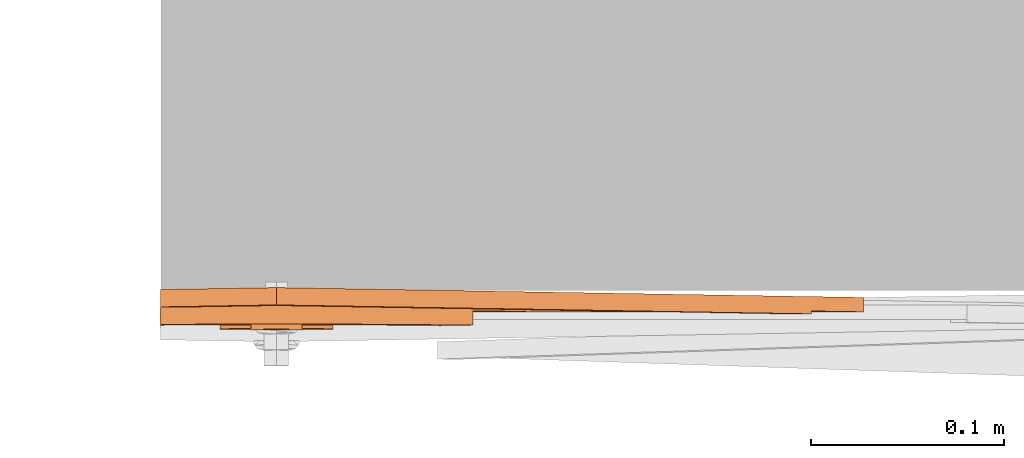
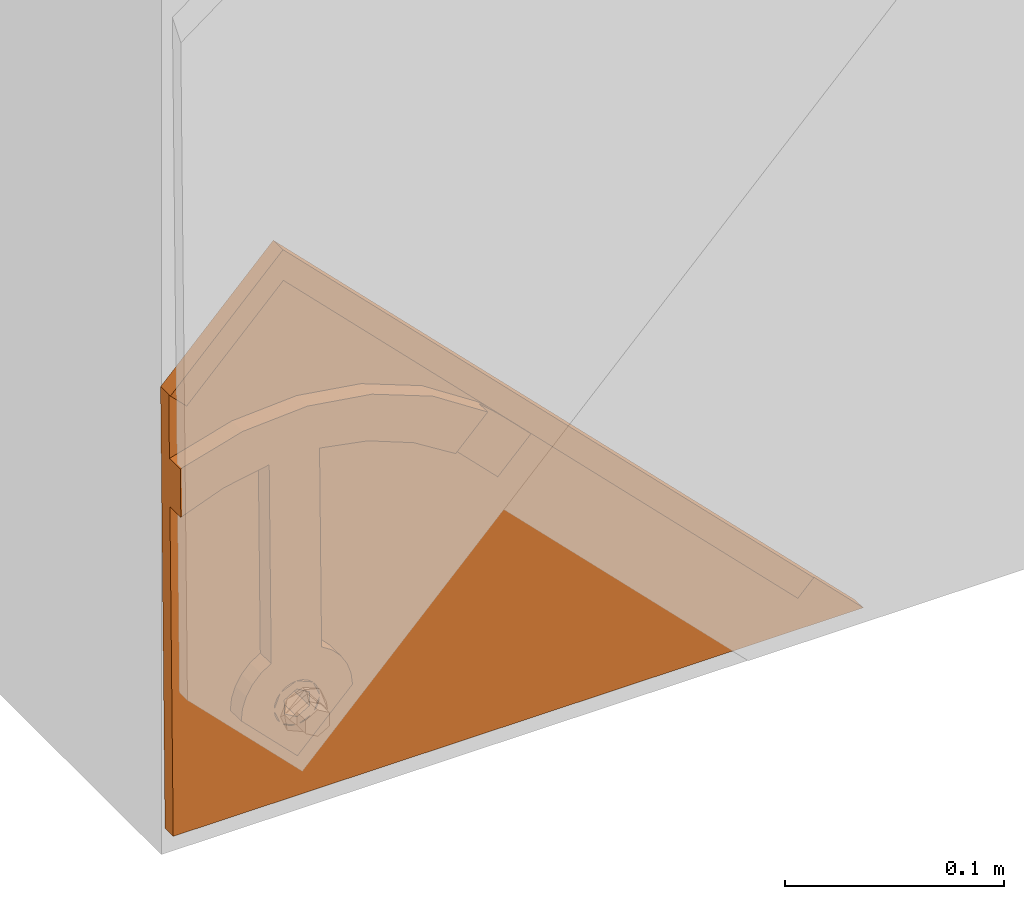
# One storey, part 146 of 151: 1 proxy.
"""IFC2X3 building model written with IfcOpenShell, lengths in millimetres."""

from ifc_helpers import new_model, entity, si_unit, converted_unit, derived_unit, direction, frame, origin, place, context, subcontext, project, spatial, faceted_brep, source, transform, mapped, material, material_list, type_object, type_shapes, element, save


model = new_model("IFC2X3")

# Units and contexts
model_context = context("Model", 3, precision=0.01, world=origin(), true_north=direction((6.12303176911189e-17, 1.0)))
body_context = subcontext(model_context, "Body", "Model", "MODEL_VIEW")
ifc_project = project(units=[si_unit("LENGTHUNIT", "METRE", prefix="MILLI"), si_unit("AREAUNIT", "SQUARE_METRE"), si_unit("VOLUMEUNIT", "CUBIC_METRE"), converted_unit("PLANEANGLEUNIT", "DEGREE", entity("IfcRatioMeasure", 0.0174532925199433), si_unit("PLANEANGLEUNIT", "RADIAN"), dimensions=[0, 0, 0, 0, 0, 0, 0]), si_unit("MASSUNIT", "GRAM", prefix="KILO"), derived_unit("MASSDENSITYUNIT", [(si_unit("MASSUNIT", "GRAM", prefix="KILO"), 1), (si_unit("LENGTHUNIT", "METRE"), -3)]), si_unit("TIMEUNIT", "SECOND"), si_unit("FREQUENCYUNIT", "HERTZ"), si_unit("THERMODYNAMICTEMPERATUREUNIT", "DEGREE_CELSIUS"), derived_unit("THERMALTRANSMITTANCEUNIT", [(si_unit("MASSUNIT", "GRAM", prefix="KILO"), 1), (si_unit("THERMODYNAMICTEMPERATUREUNIT", "KELVIN"), -1), (si_unit("TIMEUNIT", "SECOND"), -3)]), derived_unit("VOLUMETRICFLOWRATEUNIT", [(si_unit("LENGTHUNIT", "METRE"), 3), (si_unit("TIMEUNIT", "SECOND"), -1)]), si_unit("ELECTRICCURRENTUNIT", "AMPERE"), si_unit("ELECTRICVOLTAGEUNIT", "VOLT"), si_unit("POWERUNIT", "WATT"), si_unit("FORCEUNIT", "NEWTON", prefix="KILO"), si_unit("ILLUMINANCEUNIT", "LUX"), si_unit("LUMINOUSFLUXUNIT", "LUMEN"), si_unit("LUMINOUSINTENSITYUNIT", "CANDELA"), derived_unit("USERDEFINED", [(si_unit("MASSUNIT", "GRAM", prefix="KILO"), -1), (si_unit("LENGTHUNIT", "METRE"), -2), (si_unit("TIMEUNIT", "SECOND"), 3), (si_unit("LUMINOUSFLUXUNIT", "LUMEN"), 1)]), derived_unit("LINEARVELOCITYUNIT", [(si_unit("LENGTHUNIT", "METRE"), 1), (si_unit("TIMEUNIT", "SECOND"), -1)]), si_unit("PRESSUREUNIT", "PASCAL"), derived_unit("USERDEFINED", [(si_unit("LENGTHUNIT", "METRE"), -2), (si_unit("MASSUNIT", "GRAM", prefix="KILO"), 1), (si_unit("TIMEUNIT", "SECOND"), -2)])], contexts=[model_context])

# Site, building, storey
site_placement = place(None, origin())
site = spatial("IfcSite", under=ifc_project, at=site_placement, Name="Default", CompositionType="ELEMENT")
building_placement = place(site_placement, origin())
building = spatial("IfcBuilding", under=site, at=building_placement, CompositionType="ELEMENT")
storey_placement = place(building_placement, origin())
storey = spatial("IfcBuildingStorey", under=building, at=storey_placement, Name="Level 1", CompositionType="ELEMENT", Elevation=0.0)

# Proxy
ifc_material_1 = material(Name="Rubber - Sunstyle - Black")
ifc_material_2 = material(Name="Glass - Sunstyle - Tainted Terracotta")
ifc_material_list_1 = material_list([ifc_material_1, ifc_material_2])
ifc_material_list_2 = material_list([ifc_material_1, ifc_material_2])
building_element_proxy_type = type_object("IfcBuildingElementProxyType", Name="Corner Bottom Small Left - Terracotta", PredefinedType="NOTDEFINED", material=ifc_material_list_2)
shared_shape = source(origin(), body_context, "Body", "Brep", [
    faceted_brep([(330.847757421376, 18.4932261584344, 12.2894055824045), (339.332443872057, 26.9779126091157, 12.1473081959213), (339.332443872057, 27.0030303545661, 13.6470978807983), (330.847757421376, 18.5183439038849, 13.7891952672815), (61.6993486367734, 287.566165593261, 7.7831033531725), (10.0799586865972, 235.961249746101, 8.64735729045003), (1.59527223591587, 244.445936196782, 8.50525990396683), (61.6993486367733, 304.533159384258, 7.49894842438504), (61.6993486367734, 304.558277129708, 8.9987381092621), (1.59527223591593, 244.471053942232, 10.0050495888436), (10.0799586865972, 235.986367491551, 10.147146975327), (61.6993486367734, 287.591283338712, 9.2828930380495)], [[[0, 1, 2, 3]], [[1, 0, 4, 5, 6, 7]], [[2, 1, 7, 8]], [[3, 2, 8, 9, 10, 11]], [[0, 3, 11, 4]], [[5, 10, 9, 6]], [[8, 7, 6, 9]], [[4, 11, 10, 5]]]),
    faceted_brep([(61.6990261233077, 46.946835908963, 21.8142807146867), (61.6990261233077, 51.4462045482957, 21.7389274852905), (53.0953219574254, 50.5101071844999, 21.7546047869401), (70.3027302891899, 50.5101071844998, 21.7546047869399), (68.3392547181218, 55.2794047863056, 21.6747309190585), (73.8665012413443, 59.1126050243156, 21.6105343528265), (68.3392547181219, 62.9458052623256, 21.5463377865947), (70.30273028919, 67.7151028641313, 21.4664639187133), (61.6990261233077, 66.7790055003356, 21.4821412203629), (61.6990261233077, 71.2783741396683, 21.4067879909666), (53.0953219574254, 67.7151028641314, 21.4664639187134), (55.0587975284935, 62.9458052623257, 21.5463377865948), (49.5315510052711, 59.1126050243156, 21.6105343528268), (55.0587975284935, 55.2794047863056, 21.6747309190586), (55.0587978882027, 62.6778824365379, 5.54858115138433), (61.6990261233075, 66.5110824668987, 5.48438458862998), (55.0587978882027, 55.0114823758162, 5.6769742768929), (61.6990261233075, 51.1782823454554, 5.74117083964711), (68.3392543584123, 55.0114823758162, 5.67697427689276), (68.3392543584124, 62.6778824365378, 5.5485811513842), (53.0953219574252, 50.2421845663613, 5.75684814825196), (61.6990261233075, 46.6789132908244, 5.81652407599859), (49.5315510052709, 58.844682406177, 5.61277771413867), (53.0953219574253, 67.4471802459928, 5.4687072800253), (61.6990261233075, 71.0104515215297, 5.4090313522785), (70.3027302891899, 67.4471802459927, 5.46870728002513), (73.8665012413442, 58.844682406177, 5.61277771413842), (70.3027302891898, 50.2421845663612, 5.75684814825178)], [[[0, 1, 2]], [[1, 0, 3]], [[3, 4, 1]], [[4, 3, 5]], [[6, 4, 5]], [[5, 7, 6]], [[7, 8, 6]], [[8, 7, 9]], [[8, 9, 10]], [[10, 11, 8]], [[12, 11, 10]], [[2, 13, 12]], [[12, 13, 11]], [[13, 2, 1]], [[8, 11, 14, 15]], [[11, 13, 16, 14]], [[13, 1, 17, 16]], [[1, 4, 18, 17]], [[4, 6, 19, 18]], [[6, 8, 15, 19]], [[20, 17, 21]], [[17, 20, 16]], [[22, 16, 20]], [[14, 16, 22]], [[23, 14, 22]], [[15, 14, 23]], [[23, 24, 15]], [[24, 25, 15]], [[19, 15, 25]], [[19, 25, 26]], [[26, 18, 19]], [[26, 27, 18]], [[17, 18, 27]], [[27, 21, 17]], [[24, 23, 10, 9]], [[10, 23, 22, 12]], [[20, 21, 0, 2]], [[20, 2, 12, 22]], [[21, 27, 3, 0]], [[3, 27, 26, 5]], [[25, 24, 9, 7]], [[25, 7, 5, 26]]]),
    faceted_brep([(1.59527223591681, 244.445936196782, 8.50525990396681), (58.5931975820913, 70.7020897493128, 11.4150370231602), (61.6990261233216, 71.1109225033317, 11.4081900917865), (55.6990261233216, 69.5034527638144, 11.4351112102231), (64.8048546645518, 70.7020897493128, 11.4150370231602), (53.213744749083, 67.596696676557, 11.4670446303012), (51.3067212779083, 65.1117637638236, 11.5086610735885), (1.5952722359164, 0.125588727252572, 12.5970178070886), (67.6990261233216, 69.5034527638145, 11.4351112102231), (61.6993486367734, 304.533159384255, 7.49894842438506), (50.1079162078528, 62.2179980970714, 11.5571244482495), (49.6990261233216, 59.1126050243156, 11.6091320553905), (50.1079162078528, 56.0072119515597, 11.6611396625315), (51.3067212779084, 53.1134462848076, 11.7096030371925), (53.2137447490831, 50.6285133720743, 11.7512194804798), (55.6990261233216, 48.7217572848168, 11.7831529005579), (58.5931975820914, 47.5231202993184, 11.8032270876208), (61.6990261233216, 47.1142875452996, 11.8100740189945), (64.8048546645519, 47.5231202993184, 11.8032270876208), (67.6990261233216, 48.7217572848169, 11.7831529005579), (366.192299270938, 0.125588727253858, 12.5970178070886), (72.0913309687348, 65.1117637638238, 11.5086610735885), (73.2901360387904, 62.2179980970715, 11.5571244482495), (73.6990261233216, 59.1126050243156, 11.6091320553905), (70.1843074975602, 50.6285133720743, 11.7512194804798), (72.0913309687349, 53.1134462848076, 11.7096030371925), (73.2901360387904, 56.0072119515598, 11.6611396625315), (70.1843074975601, 67.596696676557, 11.4670446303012), (1.5952722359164, 0.0, 5.09806938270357), (55.6990261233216, 48.5961685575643, 4.2842044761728), (58.5931975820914, 47.3975315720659, 4.30427866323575), (53.2137447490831, 50.5029246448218, 4.25227105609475), (61.6990261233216, 46.9886988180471, 4.3111255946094), (51.3067212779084, 52.9878575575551, 4.21065461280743), (50.1079162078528, 55.8816232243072, 4.16219123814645), (49.6990261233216, 58.9870162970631, 4.11018363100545), (50.1079162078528, 62.0924093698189, 4.05817602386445), (64.8048546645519, 47.3975315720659, 4.30427866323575), (67.6990261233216, 48.5961685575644, 4.2842044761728), (366.192299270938, 0.0, 5.09806938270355), (51.3067212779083, 64.9861750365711, 4.00971264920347), (1.59527223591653, 244.320347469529, 1.00631147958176), (53.213744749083, 67.4711079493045, 3.96809620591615), (55.6990261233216, 69.3778640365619, 3.93616278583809), (58.5931975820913, 70.5765010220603, 3.91608859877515), (61.6990261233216, 70.9853337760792, 3.90924166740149), (64.8048546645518, 70.5765010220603, 3.91608859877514), (67.6990261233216, 69.377864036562, 3.93616278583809), (61.6993486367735, 304.407570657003, 0.0), (72.0913309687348, 64.9861750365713, 4.00971264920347), (70.1843074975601, 67.4711079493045, 3.96809620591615), (70.1843074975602, 50.5029246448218, 4.25227105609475), (72.0913309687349, 52.9878575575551, 4.21065461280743), (73.2901360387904, 55.8816232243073, 4.16219123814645), (73.6990261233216, 58.9870162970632, 4.11018363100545), (73.2901360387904, 62.092409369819, 4.05817602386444)], [[[0, 1, 2]], [[1, 0, 3]], [[0, 2, 4]], [[5, 3, 0]], [[6, 5, 0]], [[6, 0, 7]], [[8, 0, 4]], [[0, 8, 9]], [[7, 10, 6]], [[11, 10, 7]], [[12, 11, 7]], [[13, 12, 7]], [[7, 14, 13]], [[14, 7, 15]], [[16, 15, 7]], [[7, 17, 16]], [[17, 7, 18]], [[19, 18, 7]], [[20, 19, 7]], [[9, 21, 20]], [[20, 21, 22]], [[20, 22, 23]], [[19, 20, 24]], [[25, 24, 20]], [[26, 25, 20]], [[26, 20, 23]], [[9, 8, 27]], [[27, 21, 9]], [[28, 29, 30]], [[29, 28, 31]], [[28, 30, 32]], [[33, 31, 28]], [[34, 33, 28]], [[35, 34, 28]], [[28, 36, 35]], [[37, 28, 32]], [[37, 38, 28]], [[28, 38, 39]], [[36, 28, 40]], [[28, 41, 40]], [[42, 40, 41]], [[41, 43, 42]], [[43, 41, 44]], [[45, 44, 41]], [[41, 46, 45]], [[41, 47, 46]], [[47, 41, 48]], [[49, 48, 39]], [[50, 47, 48]], [[48, 49, 50]], [[38, 51, 39]], [[51, 52, 39]], [[52, 53, 39]], [[39, 53, 54]], [[55, 39, 54]], [[49, 39, 55]], [[11, 35, 36, 10]], [[10, 36, 40, 6]], [[3, 5, 42, 43]], [[40, 42, 5, 6]], [[1, 3, 43, 44]], [[45, 2, 1, 44]], [[4, 46, 47, 8]], [[8, 47, 50, 27]], [[22, 21, 49, 55]], [[50, 49, 21, 27]], [[23, 22, 55, 54]], [[4, 2, 45, 46]], [[23, 54, 53, 26]], [[26, 53, 52, 25]], [[19, 24, 51, 38]], [[52, 51, 24, 25]], [[18, 19, 38, 37]], [[32, 17, 18, 37]], [[16, 30, 29, 15]], [[15, 29, 31, 14]], [[12, 13, 33, 34]], [[31, 33, 13, 14]], [[11, 12, 34, 35]], [[16, 17, 32, 30]], [[0, 9, 48, 41]], [[7, 0, 41, 28]], [[20, 7, 28, 39]], [[9, 20, 39, 48]]]),
    faceted_brep([(1.59527223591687, 209.239382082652, 19.0962843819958), (1.59527223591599, 182.513149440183, 19.5438822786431), (24.4390403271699, 190.969673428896, 19.4022565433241), (34.6448586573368, 218.551914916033, 18.9403226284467), (48.3990261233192, 195.36105911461, 19.3287117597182), (68.9162632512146, 220.671424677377, 18.9048261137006), (74.999026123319, 195.361059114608, 19.3287117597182), (74.99902612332, 85.4841763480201, 21.1688761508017), (48.3990261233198, 85.4841763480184, 21.1688761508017), (61.6990261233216, 71.2783741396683, 21.4067879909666), (58.5931975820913, 70.8695413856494, 21.4136349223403), (55.6990261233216, 69.670904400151, 21.4337091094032), (42.9949199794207, 81.9461281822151, 21.2281296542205), (53.213744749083, 67.7641483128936, 21.4656425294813), (38.4943757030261, 77.3131226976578, 21.3057209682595), (51.3067212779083, 65.2792154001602, 21.5072589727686), (35.1148065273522, 71.8089720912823, 21.397901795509), (50.1079162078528, 62.385449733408, 21.5557223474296), (33.0194733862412, 65.6995720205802, 21.5002190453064), (49.6990261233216, 59.2800566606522, 21.6077299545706), (32.3095980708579, 59.2800566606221, 21.6077299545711), (50.1079162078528, 56.1746635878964, 21.6597375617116), (51.3067212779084, 53.2808979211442, 21.7082009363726), (53.2137447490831, 50.7959650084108, 21.7498173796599), (61.6990261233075, 29.8947493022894, 22.0998607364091), (55.6990261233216, 48.8892089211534, 21.7817507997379), (58.5931975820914, 47.690571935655, 21.8018249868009), (61.6990261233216, 47.2817391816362, 21.8086719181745), (64.8048546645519, 47.690571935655, 21.8018249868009), (67.6990261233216, 48.8892089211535, 21.7817507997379), (70.1843074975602, 50.7959650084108, 21.7498173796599), (91.0884541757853, 59.2800566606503, 21.6077299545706), (72.0913309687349, 53.2808979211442, 21.7082009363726), (73.2901360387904, 56.1746635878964, 21.6597375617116), (73.6990261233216, 59.2800566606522, 21.6077299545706), (90.3785788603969, 65.699572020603, 21.500219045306), (73.2901360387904, 62.3854497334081, 21.5557223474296), (88.2832457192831, 71.8089720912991, 21.3979017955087), (72.0913309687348, 65.2792154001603, 21.5072589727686), (84.9036765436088, 77.3131226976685, 21.3057209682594), (70.1843074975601, 67.7641483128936, 21.4656425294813), (80.4031322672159, 81.9461281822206, 21.2281296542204), (67.6990261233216, 69.6709044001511, 21.4337091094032), (64.8048546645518, 70.8695413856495, 21.4136349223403), (102.861723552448, 215.50219023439, 18.9913979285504), (100.468768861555, 190.546178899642, 19.4093490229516), (134.948197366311, 203.277664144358, 19.1961283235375), (124.623359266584, 181.142545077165, 19.5668364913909), (146.643422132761, 167.469148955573, 19.7958318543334), (163.72659789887, 184.549929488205, 19.5097712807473), (51.3067212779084, 53.1134462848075, 11.7096030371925), (32.3095980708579, 59.1126050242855, 11.609132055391), (50.1079162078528, 56.0072119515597, 11.6611396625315), (53.2137447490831, 50.6285133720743, 11.7512194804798), (61.6990261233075, 29.7272976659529, 12.1012628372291), (55.6990261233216, 48.7217572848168, 11.7831529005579), (58.5931975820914, 47.5231202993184, 11.8032270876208), (61.6990261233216, 47.1142875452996, 11.8100740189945), (64.8048546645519, 47.5231202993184, 11.8032270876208), (67.6990261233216, 48.7217572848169, 11.7831529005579), (70.1843074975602, 50.6285133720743, 11.7512194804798), (91.0884541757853, 59.1126050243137, 11.6091320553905), (72.0913309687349, 53.1134462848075, 11.7096030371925), (73.2901360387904, 56.0072119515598, 11.6611396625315), (73.6990261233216, 59.1126050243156, 11.6091320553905), (90.3785788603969, 65.5321203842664, 11.5016211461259), (73.2901360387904, 62.2179980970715, 11.5571244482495), (88.2832457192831, 71.6415204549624, 11.3993038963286), (72.0913309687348, 65.1117637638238, 11.5086610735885), (84.9036765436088, 77.1456710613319, 11.3071230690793), (70.1843074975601, 67.596696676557, 11.4670446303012), (80.4031322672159, 81.778676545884, 11.2295317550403), (67.6990261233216, 69.5034527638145, 11.4351112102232), (74.99902612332, 85.3167247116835, 11.1702782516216), (64.8048546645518, 70.7020897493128, 11.4150370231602), (61.6990261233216, 71.1109225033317, 11.4081900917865), (48.39902612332, 85.3167247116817, 11.1702782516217), (58.5931975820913, 70.7020897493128, 11.4150370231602), (55.6990261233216, 69.5034527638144, 11.4351112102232), (42.9949199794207, 81.7786765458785, 11.2295317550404), (53.213744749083, 67.596696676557, 11.4670446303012), (38.4943757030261, 77.1456710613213, 11.3071230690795), (51.3067212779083, 65.1117637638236, 11.5086610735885), (35.1148065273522, 71.6415204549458, 11.3993038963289), (50.1079162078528, 62.2179980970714, 11.5571244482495), (33.0194733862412, 65.5321203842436, 11.5016211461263), (49.6990261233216, 59.1126050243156, 11.6091320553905), (48.3990261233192, 195.193607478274, 9.33011386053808), (74.99902612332, 195.193607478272, 9.33011386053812), (68.9162632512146, 220.50397304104, 8.90622821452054), (34.6448586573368, 218.384463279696, 8.94172472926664), (24.4390403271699, 190.802221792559, 9.40365864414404), (1.59527223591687, 209.071930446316, 9.09768648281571), (1.59527223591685, 182.345697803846, 9.545284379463), (102.861723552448, 215.334738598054, 8.99280002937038), (100.468768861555, 190.378727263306, 9.4107511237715), (134.948197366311, 203.110212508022, 9.19753042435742), (124.623359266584, 180.975093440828, 9.5682385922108), (146.643422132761, 167.301697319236, 9.79723395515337), (163.72659789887, 184.382477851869, 9.51117338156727), (169.978999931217, 179.020830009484, 9.60096764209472), (175.949995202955, 173.347554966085, 9.69598088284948), (172.968069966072, 140.980740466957, 10.2380444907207), (190.645739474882, 158.655931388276, 9.94202902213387), (190.645739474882, 158.69779429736, 12.4416784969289), (172.968069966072, 141.022603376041, 12.7376939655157), (163.72659789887, 184.424340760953, 12.0108228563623), (146.643422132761, 167.34356022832, 12.2968834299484), (175.949995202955, 173.38941787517, 12.1956303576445), (169.978999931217, 179.062692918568, 12.1006171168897)], [[[0, 1, 2]], [[0, 2, 3]], [[2, 4, 3]], [[3, 4, 5]], [[5, 4, 6]], [[7, 6, 4]], [[7, 4, 8]], [[9, 7, 8]], [[9, 8, 10]], [[10, 8, 11]], [[12, 11, 8]], [[11, 12, 13]], [[14, 13, 12]], [[13, 14, 15]], [[15, 14, 16]], [[17, 15, 16]], [[18, 17, 16]], [[18, 19, 17]], [[19, 18, 20]], [[20, 21, 19]], [[20, 22, 21]], [[22, 20, 23]], [[23, 20, 24]], [[24, 25, 23]], [[26, 25, 24]], [[24, 27, 26]], [[28, 27, 24]], [[28, 24, 29]], [[30, 29, 24]], [[30, 24, 31]], [[31, 32, 30]], [[33, 32, 31]], [[31, 34, 33]], [[35, 34, 31]], [[34, 35, 36]], [[36, 35, 37]], [[36, 37, 38]], [[38, 37, 39]], [[39, 40, 38]], [[39, 41, 40]], [[7, 42, 41]], [[40, 41, 42]], [[42, 7, 43]], [[43, 7, 9]], [[44, 5, 6]], [[44, 6, 45]], [[45, 46, 44]], [[46, 45, 47]], [[47, 48, 46]], [[49, 46, 48]], [[50, 51, 52]], [[51, 50, 53]], [[51, 53, 54]], [[54, 53, 55]], [[55, 56, 54]], [[57, 54, 56]], [[54, 57, 58]], [[54, 58, 59]], [[59, 60, 54]], [[54, 60, 61]], [[61, 60, 62]], [[62, 63, 61]], [[64, 61, 63]], [[61, 64, 65]], [[66, 65, 64]], [[67, 65, 66]], [[67, 66, 68]], [[67, 68, 69]], [[69, 68, 70]], [[71, 69, 70]], [[70, 72, 71]], [[73, 71, 72]], [[74, 73, 72]], [[73, 74, 75]], [[76, 73, 75]], [[75, 77, 76]], [[76, 77, 78]], [[79, 76, 78]], [[78, 80, 79]], [[81, 79, 80]], [[81, 80, 82]], [[82, 83, 81]], [[82, 84, 83]], [[84, 85, 83]], [[86, 85, 84]], [[52, 51, 86]], [[85, 86, 51]], [[87, 73, 76]], [[88, 73, 87]], [[88, 87, 89]], [[90, 89, 87]], [[87, 91, 90]], [[91, 92, 90]], [[93, 92, 91]], [[88, 89, 94]], [[88, 94, 95]], [[96, 95, 94]], [[96, 97, 95]], [[97, 96, 98]], [[96, 99, 98]], [[98, 99, 100]], [[98, 100, 101]], [[101, 102, 98]], [[102, 101, 103]], [[8, 4, 87, 76]], [[12, 8, 76, 79]], [[14, 12, 79, 81]], [[81, 83, 16, 14]], [[18, 16, 83, 85]], [[20, 18, 85, 51]], [[24, 20, 51, 54]], [[31, 24, 54, 61]], [[104, 105, 102, 103]], [[35, 31, 61, 65]], [[37, 35, 65, 67]], [[67, 69, 39, 37]], [[41, 39, 69, 71]], [[7, 41, 71, 73]], [[6, 7, 73, 88]], [[106, 99, 96, 46, 49]], [[46, 96, 94, 44]], [[5, 44, 94, 89]], [[3, 5, 89, 90]], [[92, 0, 3, 90]], [[19, 86, 84, 17]], [[17, 84, 82, 15]], [[11, 13, 80, 78]], [[82, 80, 13, 15]], [[10, 11, 78, 77]], [[75, 9, 10, 77]], [[43, 74, 72, 42]], [[42, 72, 70, 40]], [[36, 38, 68, 66]], [[70, 68, 38, 40]], [[34, 36, 66, 64]], [[43, 9, 75, 74]], [[34, 64, 63, 33]], [[33, 63, 62, 32]], [[29, 30, 60, 59]], [[62, 60, 30, 32]], [[28, 29, 59, 58]], [[57, 27, 28, 58]], [[26, 56, 55, 25]], [[25, 55, 53, 23]], [[21, 22, 50, 52]], [[53, 50, 22, 23]], [[19, 21, 52, 86]], [[26, 27, 57, 56]], [[49, 48, 107, 106]], [[93, 91, 2, 1]], [[87, 4, 2, 91]], [[88, 95, 45, 6]], [[95, 97, 47, 45]], [[107, 48, 47, 97, 98]], [[1, 0, 92, 93]], [[104, 108, 109, 106, 107, 105]], [[108, 104, 103, 101]], [[108, 101, 100, 109]], [[100, 99, 106, 109]], [[105, 107, 98, 102]]]),
])
type_shapes(building_element_proxy_type, [shared_shape])
proxy_placement = place(storey_placement, frame((-14369.4899813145, -13190.3788912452, 243.428032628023), z_axis=(0.0, -1.0, 0.0), x_axis=(1.0, 0.0, 0.0)))
element("IfcBuildingElementProxy", 1, at=proxy_placement, inside=storey, type_object=building_element_proxy_type, material=ifc_material_list_1, Name="Roofing_Panels_SunStyle_Tile_Corner-Bottom-Small-Left:Corner Bottom Small Left - Terracotta", ObjectType="Roofing_Panels_SunStyle_Tile_Corner-Bottom-Small-Left:Corner Bottom Small Left - Terracotta", context=body_context, shape_type="MappedRepresentation", body=[
    mapped(shared_shape, transform((0.0, 0.0, 0.0), scale=1.0)),
])

save(model, "model.ifc")
